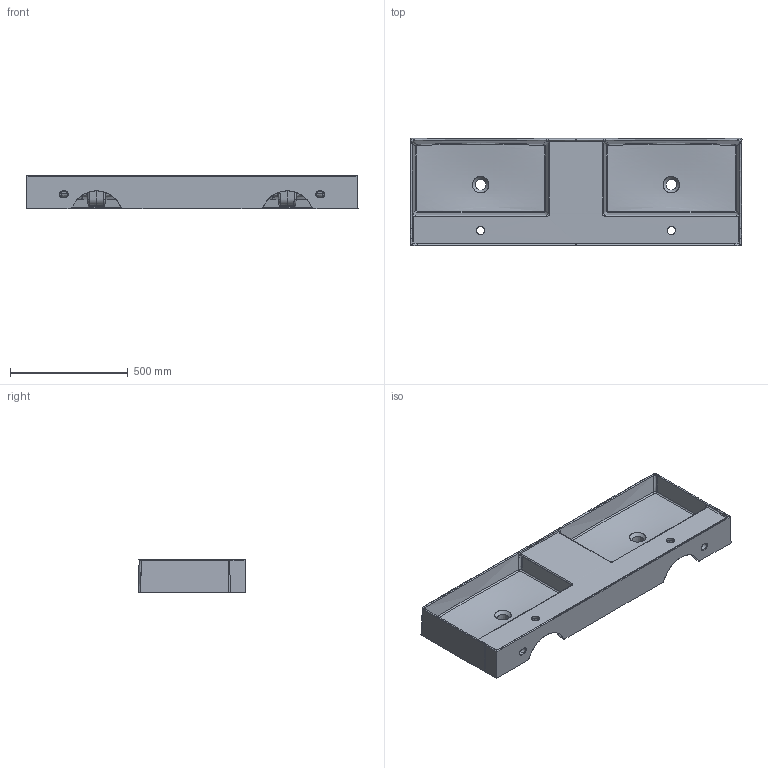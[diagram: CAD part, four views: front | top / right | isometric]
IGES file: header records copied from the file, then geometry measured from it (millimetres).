
Global section: file name: C:\Users\Massimiliano\Desktop\TEOREMA 2.0 141x46 art. 5116\TEOREMA 2.0 141x46 art.5116.igs; native system: Rhinoceros ( Mar 28 2013 ); preprocessor: Trout Lake IGES 012 Mar 28 2013; date: 180119.112148; units: millimetre
Bounding box: 1410 x 458.01 x 140.51 mm (x, y, z)
Surface area: 2586046.3 mm2 (no closed solid volume)
Topology: 0 solids, 0 shells, 424 faces, 7501 edges, 7474 vertices
Faces by surface type: bspline 424
